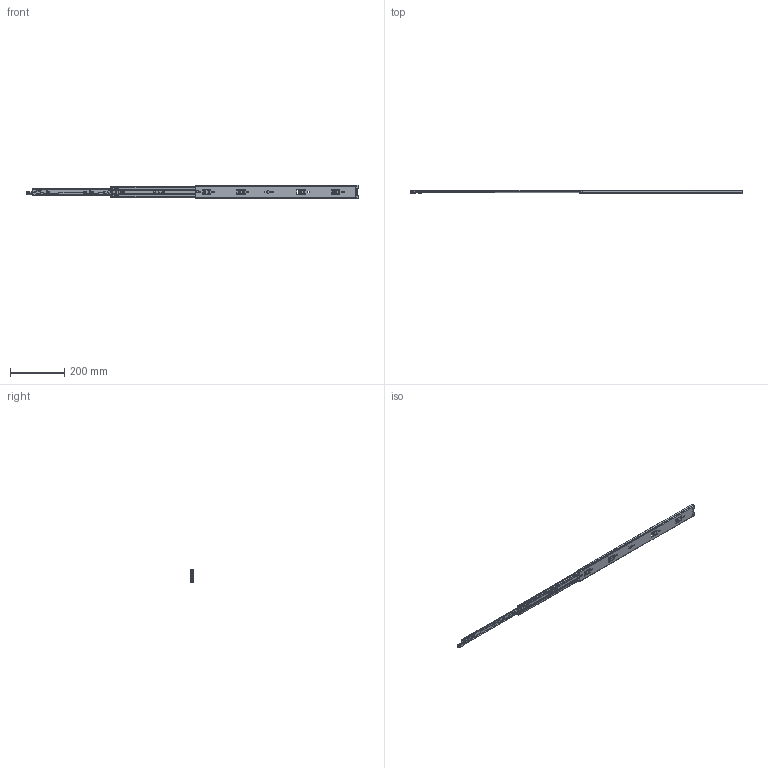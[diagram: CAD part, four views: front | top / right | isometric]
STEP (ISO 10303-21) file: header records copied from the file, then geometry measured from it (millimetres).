
FILE_DESCRIPTION((''),'2;1');
FILE_NAME('KP-50-3S-24ZUO_ASM','2023-05-06T',('jishu015'),(''),'PRO/ENGINEER BY PARAMETRIC TECHNOLOGY CORPORATION, 2010280','PRO/ENGINEER BY PARAMETRIC TECHNOLOGY CORPORATION, 2010280','');
FILE_SCHEMA(('CONFIG_CONTROL_DESIGN'));
Products named in the file (19): KP-50-01WAIKE1811; KP-50-01ZHONGGIU20___; ZHONGGUIPEIJIAN______________; 50BAIKOU___________; KP-53-01ZHONGGUI-1854_____ASM; KP-50-01ZHUJIA-16GE43____; 4-76GANZHU_________________; KP-50-01ZHUJIA-16GE23_____ASM; KP-50-01NEIGUI1832_; YH1050BANJI______________; PIAN______________; JIAO______________; DAOPIAN___________; ZOU-1___________; KP53-0NEIGUI__________________ASM; 50ZHUTIAO_________________; 50ZHUTIAO__________________ASM; CHANGGUI1045WEIJIAO232__; KP-50-3S-24ZUO_ASM
Assembly tree (72 placements, depth 3):
  KP-50-3S-24ZUO_ASM
    KP-50-01WAIKE1811
    KP-53-01ZHONGGUI-1854_____ASM
      KP-50-01ZHONGGIU20___
      ZHONGGUIPEIJIAN______________
      50BAIKOU___________
    KP-50-01ZHUJIA-16GE23_____ASM
      KP-50-01ZHUJIA-16GE43____
      4-76GANZHU_________________  x44
    KP53-0NEIGUI__________________ASM
      KP-50-01NEIGUI1832_
      YH1050BANJI______________
      PIAN______________
      JIAO______________
      DAOPIAN___________
      ZOU-1___________
    50ZHUTIAO__________________ASM  x2
      50ZHUTIAO_________________
      4-76GANZHU_________________
    CHANGGUI1045WEIJIAO232__
Bounding box: 1225.3 x 13 x 50 mm (x, y, z)
Volume: 180030.6 mm3; surface area: 237935.1 mm2
Topology: 78 solids, 79 shells, 2047 faces, 5962 edges, 3676 vertices
Faces by surface type: cylinder 894, plane 816, bspline 145, sphere 130, torus 25, extrusion 23, cone 14
Entity records: 68660 total; most frequent: CARTESIAN_POINT 18348, ORIENTED_EDGE 10748, DIRECTION 10310, EDGE_CURVE 5376, AXIS2_PLACEMENT_3D 3510, VERTEX_POINT 3414, VECTOR 3290, LINE 3267
